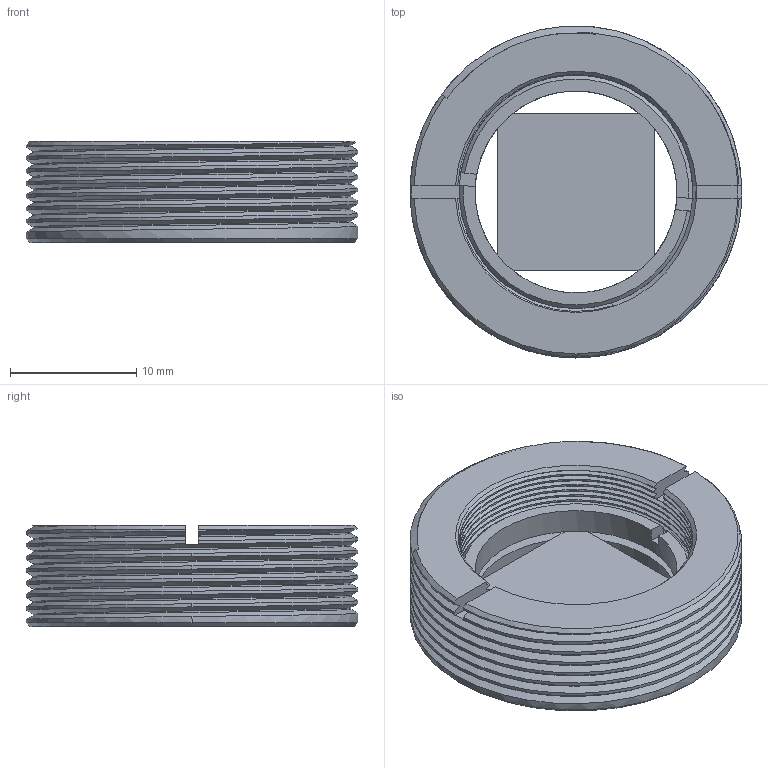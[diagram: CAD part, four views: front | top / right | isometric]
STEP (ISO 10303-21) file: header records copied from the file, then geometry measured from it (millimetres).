
FILE_DESCRIPTION (( 'STEP AP214' ), '1' );
FILE_NAME ('×°ÅäÌå1.STEP', '2026-03-28T08:41:47', ( '' ), ( '' ), 'SwSTEP 2.0', 'SolidWorks 2024', '' );
FILE_SCHEMA (( 'AUTOMOTIVE_DESIGN' ));
Length unit declared in the file: millimetre
Products named in the file (4): 转接架卡环; 转接架; 装配体1; 玻璃片
Assembly tree (3 placements, depth 2):
  装配体1
    转接架
    玻璃片
    转接架卡环
Bounding box: 26.29 x 26.29 x 8 mm (x, y, z)
Volume: 2336.3 mm3; surface area: 3066.1 mm2
Topology: 3 solids, 3 shells, 116 faces, 319 edges, 209 vertices
Faces by surface type: cylinder 45, plane 30, bspline 30, cone 11
Entity records: 14379 total; most frequent: CARTESIAN_POINT 11803, ORIENTED_EDGE 638, DIRECTION 377, EDGE_CURVE 319, VERTEX_POINT 209, AXIS2_PLACEMENT_3D 135, EDGE_LOOP 120, FACE_OUTER_BOUND 116
